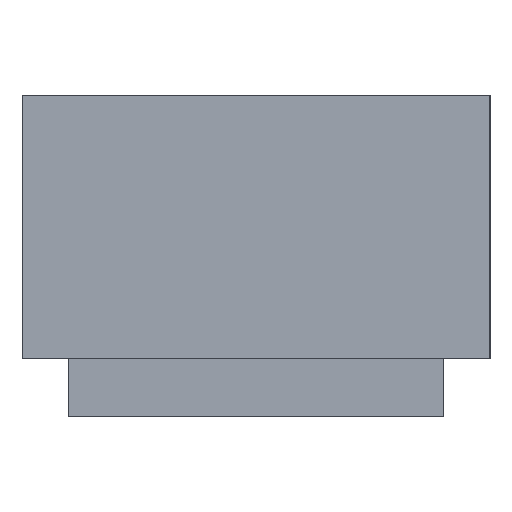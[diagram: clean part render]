
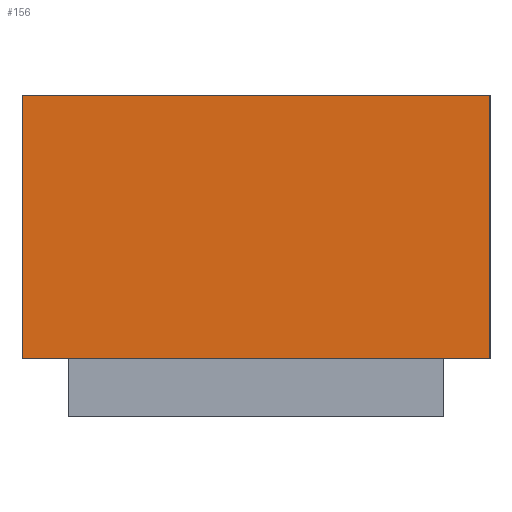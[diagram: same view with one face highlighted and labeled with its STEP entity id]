
A CAD part, left-side view. The second image highlights one B-rep face of the part: STEP entity #156.
In plain terms, the highlighted planar face has unit normal (-1, 0, 0).
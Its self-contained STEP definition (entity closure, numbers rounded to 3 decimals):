
#51 = PLANE('',#52);
#52 = AXIS2_PLACEMENT_3D('',#53,#54,#55);
#53 = CARTESIAN_POINT('',(0.8,0.4,0.));
#54 = DIRECTION('',(0.,-1.,0.));
#55 = DIRECTION('',(-1.,0.,0.));
#76 = VERTEX_POINT('',#77);
#77 = CARTESIAN_POINT('',(-0.8,0.4,0.45));
#91 = PLANE('',#92);
#92 = AXIS2_PLACEMENT_3D('',#93,#94,#95);
#93 = CARTESIAN_POINT('',(0.,0.,0.45));
#94 = DIRECTION('',(0.,0.,1.));
#95 = DIRECTION('',(1.,0.,0.));
#103 = EDGE_CURVE('',#104,#76,#106,.T.);
#104 = VERTEX_POINT('',#105);
#105 = CARTESIAN_POINT('',(-0.8,0.4,0.));
#106 = SURFACE_CURVE('',#107,(#111,#118),.PCURVE_S1.);
#107 = LINE('',#108,#109);
#108 = CARTESIAN_POINT('',(-0.8,0.4,0.));
#109 = VECTOR('',#110,1.);
#110 = DIRECTION('',(0.,0.,1.));
#111 = PCURVE('',#51,#112);
#112 = DEFINITIONAL_REPRESENTATION('',(#113),#117);
#113 = LINE('',#114,#115);
#114 = CARTESIAN_POINT('',(1.6,0.));
#115 = VECTOR('',#116,1.);
#116 = DIRECTION('',(0.,-1.));
#117 = ( GEOMETRIC_REPRESENTATION_CONTEXT(2) 
PARAMETRIC_REPRESENTATION_CONTEXT() REPRESENTATION_CONTEXT('2D SPACE',''
  ) );
#118 = PCURVE('',#119,#124);
#119 = PLANE('',#120);
#120 = AXIS2_PLACEMENT_3D('',#121,#122,#123);
#121 = CARTESIAN_POINT('',(-0.8,0.4,0.));
#122 = DIRECTION('',(1.,0.,-0.));
#123 = DIRECTION('',(0.,-1.,0.));
#124 = DEFINITIONAL_REPRESENTATION('',(#125),#129);
#125 = LINE('',#126,#127);
#126 = CARTESIAN_POINT('',(0.,0.));
#127 = VECTOR('',#128,1.);
#128 = DIRECTION('',(0.,-1.));
#129 = ( GEOMETRIC_REPRESENTATION_CONTEXT(2) 
PARAMETRIC_REPRESENTATION_CONTEXT() REPRESENTATION_CONTEXT('2D SPACE',''
  ) );
#145 = PLANE('',#146);
#146 = AXIS2_PLACEMENT_3D('',#147,#148,#149);
#147 = CARTESIAN_POINT('',(0.,0.,0.));
#148 = DIRECTION('',(0.,0.,1.));
#149 = DIRECTION('',(1.,0.,0.));
#156 = ADVANCED_FACE('',(#157),#119,.F.);
#157 = FACE_BOUND('',#158,.F.);
#158 = EDGE_LOOP('',(#159,#160,#183,#211));
#159 = ORIENTED_EDGE('',*,*,#103,.T.);
#160 = ORIENTED_EDGE('',*,*,#161,.T.);
#161 = EDGE_CURVE('',#76,#162,#164,.T.);
#162 = VERTEX_POINT('',#163);
#163 = CARTESIAN_POINT('',(-0.8,-0.4,0.45));
#164 = SURFACE_CURVE('',#165,(#169,#176),.PCURVE_S1.);
#165 = LINE('',#166,#167);
#166 = CARTESIAN_POINT('',(-0.8,0.4,0.45));
#167 = VECTOR('',#168,1.);
#168 = DIRECTION('',(0.,-1.,0.));
#169 = PCURVE('',#119,#170);
#170 = DEFINITIONAL_REPRESENTATION('',(#171),#175);
#171 = LINE('',#172,#173);
#172 = CARTESIAN_POINT('',(0.,-0.45));
#173 = VECTOR('',#174,1.);
#174 = DIRECTION('',(1.,0.));
#175 = ( GEOMETRIC_REPRESENTATION_CONTEXT(2) 
PARAMETRIC_REPRESENTATION_CONTEXT() REPRESENTATION_CONTEXT('2D SPACE',''
  ) );
#176 = PCURVE('',#91,#177);
#177 = DEFINITIONAL_REPRESENTATION('',(#178),#182);
#178 = LINE('',#179,#180);
#179 = CARTESIAN_POINT('',(-0.8,0.4));
#180 = VECTOR('',#181,1.);
#181 = DIRECTION('',(0.,-1.));
#182 = ( GEOMETRIC_REPRESENTATION_CONTEXT(2) 
PARAMETRIC_REPRESENTATION_CONTEXT() REPRESENTATION_CONTEXT('2D SPACE',''
  ) );
#183 = ORIENTED_EDGE('',*,*,#184,.F.);
#184 = EDGE_CURVE('',#185,#162,#187,.T.);
#185 = VERTEX_POINT('',#186);
#186 = CARTESIAN_POINT('',(-0.8,-0.4,0.));
#187 = SURFACE_CURVE('',#188,(#192,#199),.PCURVE_S1.);
#188 = LINE('',#189,#190);
#189 = CARTESIAN_POINT('',(-0.8,-0.4,0.));
#190 = VECTOR('',#191,1.);
#191 = DIRECTION('',(0.,0.,1.));
#192 = PCURVE('',#119,#193);
#193 = DEFINITIONAL_REPRESENTATION('',(#194),#198);
#194 = LINE('',#195,#196);
#195 = CARTESIAN_POINT('',(0.8,0.));
#196 = VECTOR('',#197,1.);
#197 = DIRECTION('',(0.,-1.));
#198 = ( GEOMETRIC_REPRESENTATION_CONTEXT(2) 
PARAMETRIC_REPRESENTATION_CONTEXT() REPRESENTATION_CONTEXT('2D SPACE',''
  ) );
#199 = PCURVE('',#200,#205);
#200 = PLANE('',#201);
#201 = AXIS2_PLACEMENT_3D('',#202,#203,#204);
#202 = CARTESIAN_POINT('',(-0.8,-0.4,0.));
#203 = DIRECTION('',(0.,1.,0.));
#204 = DIRECTION('',(1.,0.,0.));
#205 = DEFINITIONAL_REPRESENTATION('',(#206),#210);
#206 = LINE('',#207,#208);
#207 = CARTESIAN_POINT('',(0.,0.));
#208 = VECTOR('',#209,1.);
#209 = DIRECTION('',(0.,-1.));
#210 = ( GEOMETRIC_REPRESENTATION_CONTEXT(2) 
PARAMETRIC_REPRESENTATION_CONTEXT() REPRESENTATION_CONTEXT('2D SPACE',''
  ) );
#211 = ORIENTED_EDGE('',*,*,#212,.F.);
#212 = EDGE_CURVE('',#104,#185,#213,.T.);
#213 = SURFACE_CURVE('',#214,(#218,#225),.PCURVE_S1.);
#214 = LINE('',#215,#216);
#215 = CARTESIAN_POINT('',(-0.8,0.4,0.));
#216 = VECTOR('',#217,1.);
#217 = DIRECTION('',(0.,-1.,0.));
#218 = PCURVE('',#119,#219);
#219 = DEFINITIONAL_REPRESENTATION('',(#220),#224);
#220 = LINE('',#221,#222);
#221 = CARTESIAN_POINT('',(0.,0.));
#222 = VECTOR('',#223,1.);
#223 = DIRECTION('',(1.,0.));
#224 = ( GEOMETRIC_REPRESENTATION_CONTEXT(2) 
PARAMETRIC_REPRESENTATION_CONTEXT() REPRESENTATION_CONTEXT('2D SPACE',''
  ) );
#225 = PCURVE('',#145,#226);
#226 = DEFINITIONAL_REPRESENTATION('',(#227),#231);
#227 = LINE('',#228,#229);
#228 = CARTESIAN_POINT('',(-0.8,0.4));
#229 = VECTOR('',#230,1.);
#230 = DIRECTION('',(0.,-1.));
#231 = ( GEOMETRIC_REPRESENTATION_CONTEXT(2) 
PARAMETRIC_REPRESENTATION_CONTEXT() REPRESENTATION_CONTEXT('2D SPACE',''
  ) );
